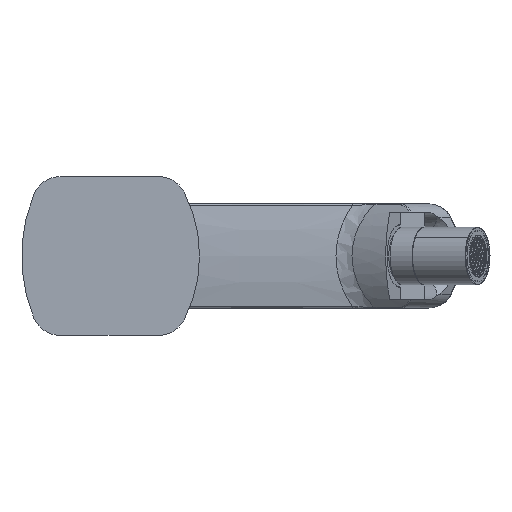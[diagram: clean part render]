
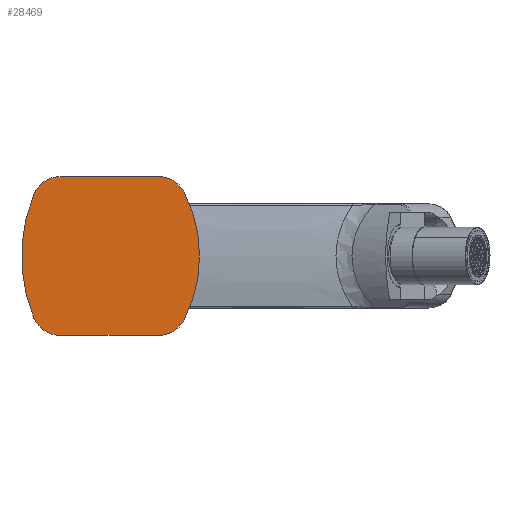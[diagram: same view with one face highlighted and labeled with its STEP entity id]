
A CAD part, front view. The second image highlights one B-rep face of the part: STEP entity #28469.
In plain terms, the highlighted planar face has unit normal (0, -1, 0).
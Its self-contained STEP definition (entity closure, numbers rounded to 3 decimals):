
#433 = DIRECTION ( 'NONE',  ( 0., -1., 0. ) ) ;
#1306 = AXIS2_PLACEMENT_3D ( 'NONE', #69590, #41010, #106167 ) ;
#1796 = DIRECTION ( 'NONE',  ( 0., 0., -1. ) ) ;
#2194 = CIRCLE ( 'NONE', #114734, 8.787 ) ;
#2391 = CARTESIAN_POINT ( 'NONE',  ( -111.928, -11.1, 98.666 ) ) ;
#2752 = VERTEX_POINT ( 'NONE', #51735 ) ;
#4233 = EDGE_CURVE ( 'NONE', #2752, #54617, #77059, .T. ) ;
#6318 = CIRCLE ( 'NONE', #80721, 44. ) ;
#6849 = CARTESIAN_POINT ( 'NONE',  ( -80.976, -11.1, 130.593 ) ) ;
#6873 = VERTEX_POINT ( 'NONE', #74098 ) ;
#7099 = DIRECTION ( 'NONE',  ( 0., 0., -1. ) ) ;
#8145 = CIRCLE ( 'NONE', #17690, 8.787 ) ;
#8147 = VECTOR ( 'NONE', #78252, 1000. ) ;
#8807 = DIRECTION ( 'NONE',  ( 0., 0., -1. ) ) ;
#13868 = EDGE_CURVE ( 'NONE', #29467, #35684, #52727, .T. ) ;
#14676 = EDGE_CURVE ( 'NONE', #6873, #34318, #8145, .T. ) ;
#17690 = AXIS2_PLACEMENT_3D ( 'NONE', #75205, #28142, #55522 ) ;
#19516 = CARTESIAN_POINT ( 'NONE',  ( -73.908, -11.1, 114.581 ) ) ;
#22806 = CARTESIAN_POINT ( 'NONE',  ( -75.984, -11.1, 139.379 ) ) ;
#26682 = EDGE_CURVE ( 'NONE', #32722, #2752, #2194, .T. ) ;
#28142 = DIRECTION ( 'NONE',  ( 0., -1., 0. ) ) ;
#28469 = ADVANCED_FACE ( 'NONE', ( #96050 ), #69641, .T. ) ;
#28591 = AXIS2_PLACEMENT_3D ( 'NONE', #48638, #58174, #76676 ) ;
#28791 = EDGE_CURVE ( 'NONE', #35684, #100675, #96142, .T. ) ;
#29467 = VERTEX_POINT ( 'NONE', #88182 ) ;
#30432 = CARTESIAN_POINT ( 'NONE',  ( -73.144, -11.1, 134.576 ) ) ;
#32722 = VERTEX_POINT ( 'NONE', #30432 ) ;
#34318 = VERTEX_POINT ( 'NONE', #34371 ) ;
#34371 = CARTESIAN_POINT ( 'NONE',  ( -73.144, -11.1, 94.683 ) ) ;
#35684 = VERTEX_POINT ( 'NONE', #100577 ) ;
#36958 = ORIENTED_EDGE ( 'NONE', *, *, #96367, .T. ) ;
#38931 = CARTESIAN_POINT ( 'NONE',  ( -117.384, -11.1, 89.879 ) ) ;
#40977 = CARTESIAN_POINT ( 'NONE',  ( -111.888, -11.1, 139.38 ) ) ;
#41010 = DIRECTION ( 'NONE',  ( 0., -1., 0. ) ) ;
#41745 = ORIENTED_EDGE ( 'NONE', *, *, #101061, .T. ) ;
#47246 = DIRECTION ( 'NONE',  ( 1., 0., 0. ) ) ;
#48445 = LINE ( 'NONE', #38931, #49351 ) ;
#48638 = CARTESIAN_POINT ( 'NONE',  ( -111.928, -11.1, 98.666 ) ) ;
#49028 = CARTESIAN_POINT ( 'NONE',  ( -111.888, -11.1, 130.593 ) ) ;
#49351 = VECTOR ( 'NONE', #47246, 1000. ) ;
#51279 = AXIS2_PLACEMENT_3D ( 'NONE', #49028, #90094, #7099 ) ;
#51735 = CARTESIAN_POINT ( 'NONE',  ( -80.976, -11.1, 139.379 ) ) ;
#52727 = CIRCLE ( 'NONE', #1306, 50.003 ) ;
#53683 = ORIENTED_EDGE ( 'NONE', *, *, #28791, .T. ) ;
#54617 = VERTEX_POINT ( 'NONE', #40977 ) ;
#55522 = DIRECTION ( 'NONE',  ( 0., 0., -1. ) ) ;
#58174 = DIRECTION ( 'NONE',  ( 0., -1., 0. ) ) ;
#61496 = ORIENTED_EDGE ( 'NONE', *, *, #70544, .T. ) ;
#63618 = EDGE_CURVE ( 'NONE', #34318, #32722, #6318, .T. ) ;
#64559 = CIRCLE ( 'NONE', #51279, 8.787 ) ;
#65532 = ORIENTED_EDGE ( 'NONE', *, *, #4233, .T. ) ;
#66119 = CARTESIAN_POINT ( 'NONE',  ( -112.364, -11.1, 114.63 ) ) ;
#67565 = EDGE_LOOP ( 'NONE', ( #65532, #36958, #76468, #53683, #61496, #41745, #101379, #112920, #76556 ) ) ;
#69590 = CARTESIAN_POINT ( 'NONE',  ( -73.908, -11.1, 114.581 ) ) ;
#69641 = PLANE ( 'NONE',  #94080 ) ;
#70544 = EDGE_CURVE ( 'NONE', #100675, #100969, #106862, .T. ) ;
#71841 = DIRECTION ( 'NONE',  ( 0., -1., 0. ) ) ;
#73990 = DIRECTION ( 'NONE',  ( 0., -1., 0. ) ) ;
#74098 = CARTESIAN_POINT ( 'NONE',  ( -80.976, -11.1, 89.88 ) ) ;
#75205 = CARTESIAN_POINT ( 'NONE',  ( -80.976, -11.1, 98.666 ) ) ;
#76251 = DIRECTION ( 'NONE',  ( 0., 0., -1. ) ) ;
#76468 = ORIENTED_EDGE ( 'NONE', *, *, #13868, .T. ) ;
#76556 = ORIENTED_EDGE ( 'NONE', *, *, #26682, .T. ) ;
#76676 = DIRECTION ( 'NONE',  ( 0., 0., -1. ) ) ;
#76949 = AXIS2_PLACEMENT_3D ( 'NONE', #2391, #73990, #1796 ) ;
#77059 = LINE ( 'NONE', #22806, #8147 ) ;
#78252 = DIRECTION ( 'NONE',  ( -1., 0., 0. ) ) ;
#80721 = AXIS2_PLACEMENT_3D ( 'NONE', #66119, #104461, #76251 ) ;
#88182 = CARTESIAN_POINT ( 'NONE',  ( -119.984, -11.1, 134.006 ) ) ;
#90094 = DIRECTION ( 'NONE',  ( 0., -1., 0. ) ) ;
#91568 = CARTESIAN_POINT ( 'NONE',  ( -111.928, -11.1, 89.88 ) ) ;
#94080 = AXIS2_PLACEMENT_3D ( 'NONE', #19516, #433, #8807 ) ;
#96050 = FACE_OUTER_BOUND ( 'NONE', #67565, .T. ) ;
#96142 = CIRCLE ( 'NONE', #76949, 8.787 ) ;
#96367 = EDGE_CURVE ( 'NONE', #54617, #29467, #64559, .T. ) ;
#98971 = CARTESIAN_POINT ( 'NONE',  ( -111.928, -11.1, 89.88 ) ) ;
#100577 = CARTESIAN_POINT ( 'NONE',  ( -120.034, -11.1, 95.273 ) ) ;
#100675 = VERTEX_POINT ( 'NONE', #98971 ) ;
#100969 = VERTEX_POINT ( 'NONE', #91568 ) ;
#101061 = EDGE_CURVE ( 'NONE', #100969, #6873, #48445, .T. ) ;
#101379 = ORIENTED_EDGE ( 'NONE', *, *, #14676, .T. ) ;
#104461 = DIRECTION ( 'NONE',  ( 0., -1., 0. ) ) ;
#106167 = DIRECTION ( 'NONE',  ( 0., 0., -1. ) ) ;
#106862 = CIRCLE ( 'NONE', #28591, 8.787 ) ;
#107783 = DIRECTION ( 'NONE',  ( 0., 0., -1. ) ) ;
#112920 = ORIENTED_EDGE ( 'NONE', *, *, #63618, .T. ) ;
#114734 = AXIS2_PLACEMENT_3D ( 'NONE', #6849, #71841, #107783 ) ;
